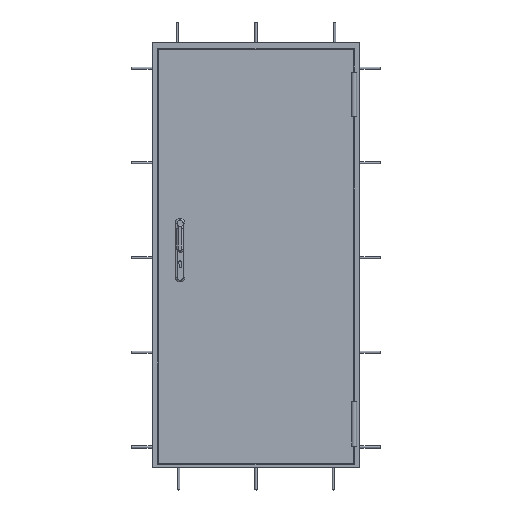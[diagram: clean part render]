
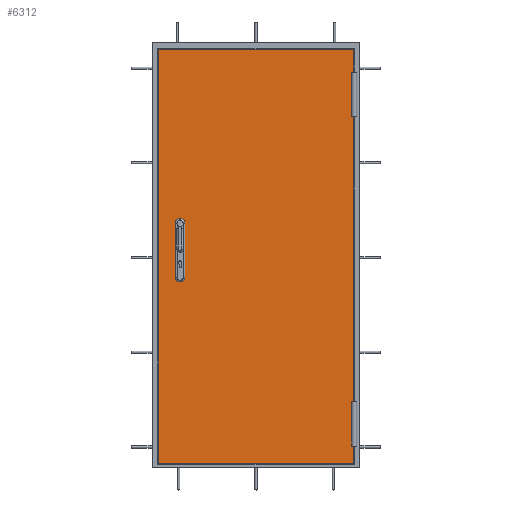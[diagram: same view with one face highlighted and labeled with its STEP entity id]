
A CAD part, top view. The second image highlights one B-rep face of the part: STEP entity #6312.
In plain terms, the highlighted planar face has unit normal (0, 0, 1).
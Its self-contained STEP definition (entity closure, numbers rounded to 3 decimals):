
#4518=DIRECTION('',(0.,-1.,0.));
#4519=VECTOR('',#4518,1977.);
#4520=CARTESIAN_POINT('',(-466.,980.5,0.));
#4521=LINE('',#4520,#4519);
#4525=DIRECTION('',(-1.,0.,0.));
#4526=VECTOR('',#4525,932.);
#4527=CARTESIAN_POINT('',(466.,980.5,0.));
#4528=LINE('',#4527,#4526);
#4532=DIRECTION('',(0.,1.,0.));
#4533=VECTOR('',#4532,1977.);
#4534=CARTESIAN_POINT('',(466.,-996.5,0.));
#4535=LINE('',#4534,#4533);
#4539=DIRECTION('',(1.,0.,0.));
#4540=VECTOR('',#4539,932.);
#4541=CARTESIAN_POINT('',(-466.,-996.5,0.));
#4542=LINE('',#4541,#4540);
#4546=DIRECTION('',(0.,-1.,0.));
#4547=VECTOR('',#4546,260.);
#4548=CARTESIAN_POINT('',(-384.5,150.4,0.));
#4549=LINE('',#4548,#4547);
#4553=CARTESIAN_POINT('',(-364.5,-109.6,0.));
#4554=DIRECTION('',(0.,0.,1.));
#4555=DIRECTION('',(-1.,0.,0.));
#4556=AXIS2_PLACEMENT_3D('',#4553,#4554,#4555);
#4561=DIRECTION('',(1.,0.,0.));
#4562=VECTOR('',#4561,5.);
#4563=CARTESIAN_POINT('',(-364.5,-129.6,0.));
#4564=LINE('',#4563,#4562);
#4568=CARTESIAN_POINT('',(-359.5,-109.6,0.));
#4569=DIRECTION('',(0.,0.,1.));
#4570=DIRECTION('',(0.,-1.,0.));
#4571=AXIS2_PLACEMENT_3D('',#4568,#4569,#4570);
#4576=DIRECTION('',(0.,1.,0.));
#4577=VECTOR('',#4576,260.);
#4578=CARTESIAN_POINT('',(-339.5,-109.6,0.));
#4579=LINE('',#4578,#4577);
#4583=CARTESIAN_POINT('',(-359.5,150.4,0.));
#4584=DIRECTION('',(0.,0.,1.));
#4585=DIRECTION('',(1.,0.,0.));
#4586=AXIS2_PLACEMENT_3D('',#4583,#4584,#4585);
#4591=DIRECTION('',(-1.,0.,0.));
#4592=VECTOR('',#4591,5.);
#4593=CARTESIAN_POINT('',(-359.5,170.4,0.));
#4594=LINE('',#4593,#4592);
#4598=CARTESIAN_POINT('',(-364.5,150.4,0.));
#4599=DIRECTION('',(0.,0.,1.));
#4600=DIRECTION('',(0.,1.,0.));
#4601=AXIS2_PLACEMENT_3D('',#4598,#4599,#4600);
#5283=CARTESIAN_POINT('',(-466.,980.5,0.));
#5284=CARTESIAN_POINT('',(-466.,-996.5,0.));
#5285=VERTEX_POINT('',#5283);
#5286=VERTEX_POINT('',#5284);
#5287=CARTESIAN_POINT('',(466.,-996.5,0.));
#5288=VERTEX_POINT('',#5287);
#5289=CARTESIAN_POINT('',(466.,980.5,0.));
#5290=VERTEX_POINT('',#5289);
#5351=CARTESIAN_POINT('',(-384.5,150.4,0.));
#5352=CARTESIAN_POINT('',(-384.5,-109.6,0.));
#5353=VERTEX_POINT('',#5351);
#5354=VERTEX_POINT('',#5352);
#5355=CARTESIAN_POINT('',(-364.5,-129.6,0.));
#5356=CARTESIAN_POINT('',(-359.5,-129.6,0.));
#5357=VERTEX_POINT('',#5355);
#5358=VERTEX_POINT('',#5356);
#5359=CARTESIAN_POINT('',(-339.5,-109.6,0.));
#5360=CARTESIAN_POINT('',(-339.5,150.4,0.));
#5361=VERTEX_POINT('',#5359);
#5362=VERTEX_POINT('',#5360);
#5363=CARTESIAN_POINT('',(-359.5,170.4,0.));
#5364=CARTESIAN_POINT('',(-364.5,170.4,0.));
#5365=VERTEX_POINT('',#5363);
#5366=VERTEX_POINT('',#5364);
#6285=CARTESIAN_POINT('',(0.,0.,0.));
#6286=DIRECTION('',(0.,0.,1.));
#6287=DIRECTION('',(1.,0.,0.));
#6288=AXIS2_PLACEMENT_3D('',#6285,#6286,#6287);
#6289=PLANE('',#6288);
#6291=ORIENTED_EDGE('',*,*,#6290,.F.);
#6293=ORIENTED_EDGE('',*,*,#6292,.F.);
#6295=ORIENTED_EDGE('',*,*,#6294,.F.);
#6297=ORIENTED_EDGE('',*,*,#6296,.F.);
#6298=EDGE_LOOP('',(#6291,#6293,#6295,#6297));
#6299=FACE_OUTER_BOUND('',#6298,.F.);
#6300=ORIENTED_EDGE('',*,*,#6112,.T.);
#6301=ORIENTED_EDGE('',*,*,#6140,.T.);
#6302=ORIENTED_EDGE('',*,*,#6217,.T.);
#6303=ORIENTED_EDGE('',*,*,#6243,.T.);
#6304=ORIENTED_EDGE('',*,*,#5499,.T.);
#6305=ORIENTED_EDGE('',*,*,#5527,.T.);
#6307=ORIENTED_EDGE('',*,*,#6306,.T.);
#6309=ORIENTED_EDGE('',*,*,#6308,.T.);
#6310=EDGE_LOOP('',(#6300,#6301,#6302,#6303,#6304,#6305,#6307,#6309));
#6311=FACE_BOUND('',#6310,.F.);
#4557=CIRCLE('',#4556,20.);
#4572=CIRCLE('',#4571,20.);
#4587=CIRCLE('',#4586,20.);
#4602=CIRCLE('',#4601,20.);
#5499=EDGE_CURVE('',#5361,#5362,#4579,.T.);
#5527=EDGE_CURVE('',#5362,#5365,#4587,.T.);
#6112=EDGE_CURVE('',#5353,#5354,#4549,.T.);
#6140=EDGE_CURVE('',#5354,#5357,#4557,.T.);
#6217=EDGE_CURVE('',#5357,#5358,#4564,.T.);
#6243=EDGE_CURVE('',#5358,#5361,#4572,.T.);
#6290=EDGE_CURVE('',#5285,#5286,#4521,.T.);
#6292=EDGE_CURVE('',#5290,#5285,#4528,.T.);
#6294=EDGE_CURVE('',#5288,#5290,#4535,.T.);
#6296=EDGE_CURVE('',#5286,#5288,#4542,.T.);
#6306=EDGE_CURVE('',#5365,#5366,#4594,.T.);
#6308=EDGE_CURVE('',#5366,#5353,#4602,.T.);
#6312=ADVANCED_FACE('',(#6299,#6311),#6289,.T.);
